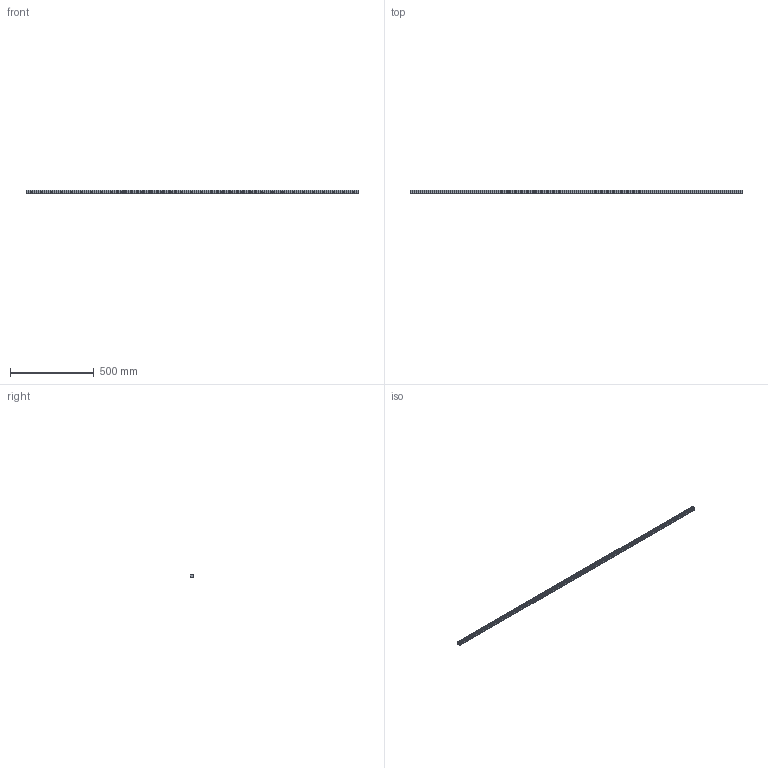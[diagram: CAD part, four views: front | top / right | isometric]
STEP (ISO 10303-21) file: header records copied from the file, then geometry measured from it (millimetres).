
FILE_DESCRIPTION (( 'STEP AP203' ), '1' );
FILE_NAME ('L1018.20R-1980.step', '2023-08-06T09:10:44', ( '' ), ( '' ), 'SwSTEP 2.0', 'SolidWorks 2019', '' );
FILE_SCHEMA (( 'CONFIG_CONTROL_DESIGN' ));
Length unit declared in the file: millimetre
Products named in the file (1): L1018.20R-1980
Bounding box: 1980 x 19.3 x 20 mm (x, y, z)
Volume: 627914 mm3; surface area: 167744.3 mm2
Topology: 1 solids, 1 shells, 326 faces, 741 edges, 417 vertices
Faces by surface type: cylinder 135, cone 132, plane 59
Entity records: 8720 total; most frequent: DIRECTION 1665, CARTESIAN_POINT 1419, ORIENTED_EDGE 1350, EDGE_CURVE 675, AXIS2_PLACEMENT_3D 663, VERTEX_POINT 417, EDGE_LOOP 392, LINE 339
